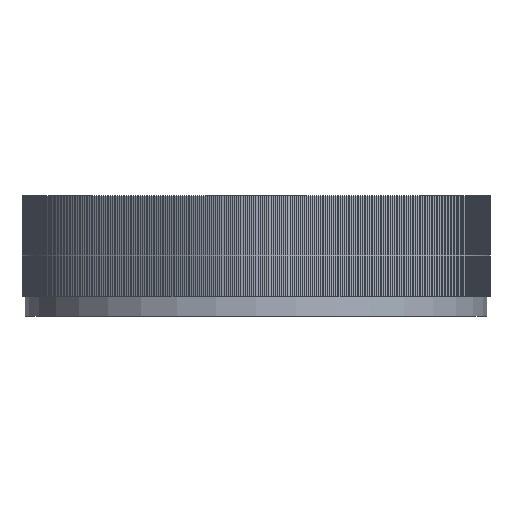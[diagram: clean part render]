
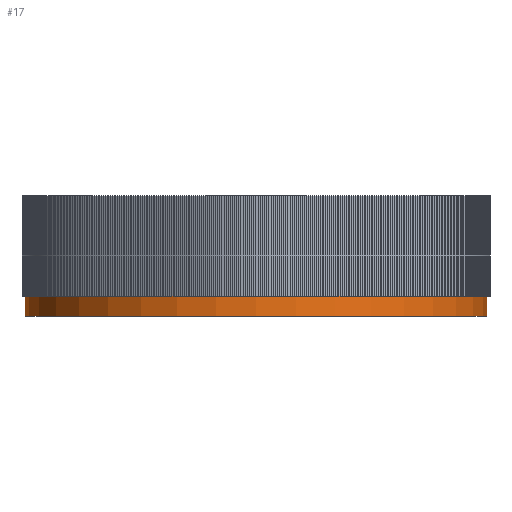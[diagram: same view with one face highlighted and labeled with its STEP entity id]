
A CAD part, left-side view. The second image highlights one B-rep face of the part: STEP entity #17.
In plain terms, the highlighted cylindrical face has radius 28.8 mm (diameter 57.6 mm), a full revolution.
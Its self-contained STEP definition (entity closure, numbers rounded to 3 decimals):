
#17 = ADVANCED_FACE('',(#18),#32,.T.);
#18 = FACE_BOUND('',#19,.F.);
#19 = EDGE_LOOP('',(#20,#50,#77,#78));
#20 = ORIENTED_EDGE('',*,*,#21,.T.);
#21 = EDGE_CURVE('',#22,#24,#26,.T.);
#22 = VERTEX_POINT('',#23);
#23 = CARTESIAN_POINT('',(28.8,0.,8.6));
#24 = VERTEX_POINT('',#25);
#25 = CARTESIAN_POINT('',(28.8,0.,6.1));
#26 = SEAM_CURVE('',#27,(#31,#43),.PCURVE_S1.);
#27 = LINE('',#28,#29);
#28 = CARTESIAN_POINT('',(28.8,0.,19.8));
#29 = VECTOR('',#30,1.);
#30 = DIRECTION('',(0.,0.,-1.));
#31 = PCURVE('',#32,#37);
#32 = CYLINDRICAL_SURFACE('',#33,28.8);
#33 = AXIS2_PLACEMENT_3D('',#34,#35,#36);
#34 = CARTESIAN_POINT('',(0.,0.,6.1));
#35 = DIRECTION('',(-0.,-0.,-1.));
#36 = DIRECTION('',(1.,0.,0.));
#37 = DEFINITIONAL_REPRESENTATION('',(#38),#42);
#38 = LINE('',#39,#40);
#39 = CARTESIAN_POINT('',(-6.283,-13.7));
#40 = VECTOR('',#41,1.);
#41 = DIRECTION('',(0.,1.));
#42 = ( GEOMETRIC_REPRESENTATION_CONTEXT(2) 
PARAMETRIC_REPRESENTATION_CONTEXT() REPRESENTATION_CONTEXT('2D SPACE',''
  ) );
#43 = PCURVE('',#32,#44);
#44 = DEFINITIONAL_REPRESENTATION('',(#45),#49);
#45 = LINE('',#46,#47);
#46 = CARTESIAN_POINT('',(-0.,-13.7));
#47 = VECTOR('',#48,1.);
#48 = DIRECTION('',(0.,1.));
#49 = ( GEOMETRIC_REPRESENTATION_CONTEXT(2) 
PARAMETRIC_REPRESENTATION_CONTEXT() REPRESENTATION_CONTEXT('2D SPACE',''
  ) );
#50 = ORIENTED_EDGE('',*,*,#51,.F.);
#51 = EDGE_CURVE('',#24,#24,#52,.T.);
#52 = SURFACE_CURVE('',#53,(#58,#65),.PCURVE_S1.);
#53 = CIRCLE('',#54,28.8);
#54 = AXIS2_PLACEMENT_3D('',#55,#56,#57);
#55 = CARTESIAN_POINT('',(0.,0.,6.1));
#56 = DIRECTION('',(0.,0.,1.));
#57 = DIRECTION('',(1.,0.,0.));
#58 = PCURVE('',#32,#59);
#59 = DEFINITIONAL_REPRESENTATION('',(#60),#64);
#60 = LINE('',#61,#62);
#61 = CARTESIAN_POINT('',(-0.,0.));
#62 = VECTOR('',#63,1.);
#63 = DIRECTION('',(-1.,0.));
#64 = ( GEOMETRIC_REPRESENTATION_CONTEXT(2) 
PARAMETRIC_REPRESENTATION_CONTEXT() REPRESENTATION_CONTEXT('2D SPACE',''
  ) );
#65 = PCURVE('',#66,#71);
#66 = PLANE('',#67);
#67 = AXIS2_PLACEMENT_3D('',#68,#69,#70);
#68 = CARTESIAN_POINT('',(0.,0.,6.1));
#69 = DIRECTION('',(0.,0.,1.));
#70 = DIRECTION('',(1.,0.,-0.));
#71 = DEFINITIONAL_REPRESENTATION('',(#72),#76);
#72 = CIRCLE('',#73,28.8);
#73 = AXIS2_PLACEMENT_2D('',#74,#75);
#74 = CARTESIAN_POINT('',(0.,0.));
#75 = DIRECTION('',(1.,0.));
#76 = ( GEOMETRIC_REPRESENTATION_CONTEXT(2) 
PARAMETRIC_REPRESENTATION_CONTEXT() REPRESENTATION_CONTEXT('2D SPACE',''
  ) );
#77 = ORIENTED_EDGE('',*,*,#21,.F.);
#78 = ORIENTED_EDGE('',*,*,#79,.F.);
#79 = EDGE_CURVE('',#22,#22,#80,.T.);
#80 = SURFACE_CURVE('',#81,(#86,#93),.PCURVE_S1.);
#81 = CIRCLE('',#82,28.8);
#82 = AXIS2_PLACEMENT_3D('',#83,#84,#85);
#83 = CARTESIAN_POINT('',(0.,0.,8.6));
#84 = DIRECTION('',(0.,0.,-1.));
#85 = DIRECTION('',(1.,0.,0.));
#86 = PCURVE('',#32,#87);
#87 = DEFINITIONAL_REPRESENTATION('',(#88),#92);
#88 = LINE('',#89,#90);
#89 = CARTESIAN_POINT('',(-6.283,-2.5));
#90 = VECTOR('',#91,1.);
#91 = DIRECTION('',(1.,-0.));
#92 = ( GEOMETRIC_REPRESENTATION_CONTEXT(2) 
PARAMETRIC_REPRESENTATION_CONTEXT() REPRESENTATION_CONTEXT('2D SPACE',''
  ) );
#93 = PCURVE('',#94,#99);
#94 = PLANE('',#95);
#95 = AXIS2_PLACEMENT_3D('',#96,#97,#98);
#96 = CARTESIAN_POINT('',(0.,0.,8.6));
#97 = DIRECTION('',(0.,0.,1.));
#98 = DIRECTION('',(1.,0.,-0.));
#99 = DEFINITIONAL_REPRESENTATION('',(#100),#108);
#100 = ( BOUNDED_CURVE() B_SPLINE_CURVE(2,(#101,#102,#103,#104,#105,#106
,#107),.UNSPECIFIED.,.T.,.F.) B_SPLINE_CURVE_WITH_KNOTS((1,2,2,2,2,1),(
    -2.094,0.,2.094,4.189,6.283,
8.378),.UNSPECIFIED.) CURVE() GEOMETRIC_REPRESENTATION_ITEM() 
RATIONAL_B_SPLINE_CURVE((1.,0.5,1.,0.5,1.,0.5,1.)) REPRESENTATION_ITEM(
  '') );
#101 = CARTESIAN_POINT('',(28.8,0.));
#102 = CARTESIAN_POINT('',(28.8,-49.883));
#103 = CARTESIAN_POINT('',(-14.4,-24.942));
#104 = CARTESIAN_POINT('',(-57.6,0.));
#105 = CARTESIAN_POINT('',(-14.4,24.942));
#106 = CARTESIAN_POINT('',(28.8,49.883));
#107 = CARTESIAN_POINT('',(28.8,0.));
#108 = ( GEOMETRIC_REPRESENTATION_CONTEXT(2) 
PARAMETRIC_REPRESENTATION_CONTEXT() REPRESENTATION_CONTEXT('2D SPACE',''
  ) );
